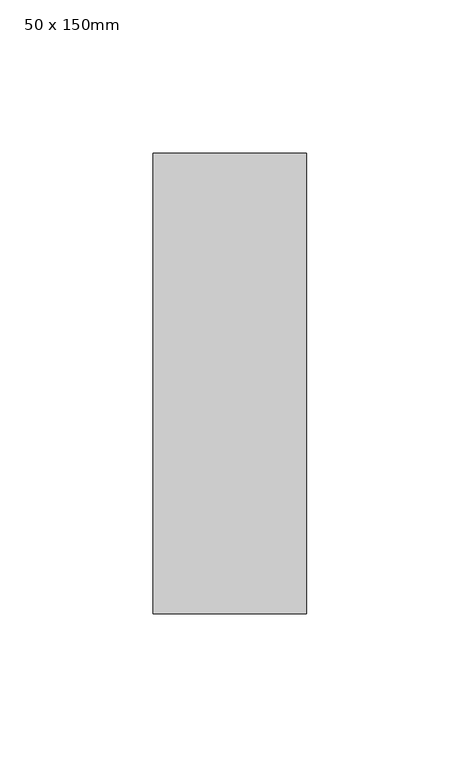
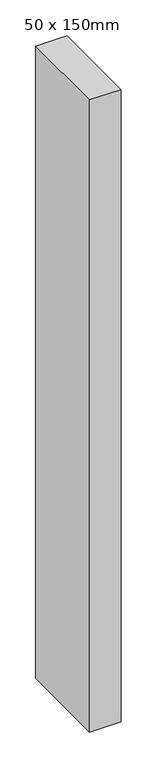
"""IFC4 building model written with IfcOpenShell, lengths in millimetres: member geometry, 矩形豎框 : 50 x 150mm."""

from ifc_helpers import new_model, si_unit, frame, origin, place, context, project, spatial, polyline, outline, extrude, source, transform, mapped, element, save


def member_50_x_150mm_4bc6baff(model_context):
    return source(origin(), model_context, "Body", "SweptSolid", [
        extrude(outline(polyline([(0.0, 75.0), (0.0, -75.0), (-50.0, -75.0), (-50.0, 75.0), (0.0, 75.0)])), frame((0.0, 0.0, -1072.9674532), z_axis=(0.0, 0.0, 1.0), x_axis=(1.0, 0.0, 0.0)), (0.0, 0.0, 1.0), 1072.9674532),
    ])


if __name__ == "__main__":
    model = new_model("IFC4")
    model_context = context("Model", 3, world=origin())
    ifc_project = project(units=[si_unit("LENGTHUNIT", "METRE", prefix="MILLI")], contexts=[model_context])
    site = spatial("IfcSite", under=ifc_project)
    building = spatial("IfcBuilding", under=site)
    placement = place(None, origin())
    member_50_x_150mm_shape = member_50_x_150mm_4bc6baff(model_context)
    element("IfcMember", 1, ObjectType="矩形豎框 : 50 x 150mm", at=placement, inside=building, context=model_context, shape_type="MappedRepresentation", body=[
        mapped(member_50_x_150mm_shape, transform((0.0, 0.0, 0.0), x_axis=(1.0, 0.0, 0.0), y_axis=(0.0, 1.0, 0.0), z_axis=(0.0, 0.0, 1.0))),
    ])
    save(model, "model.ifc")
